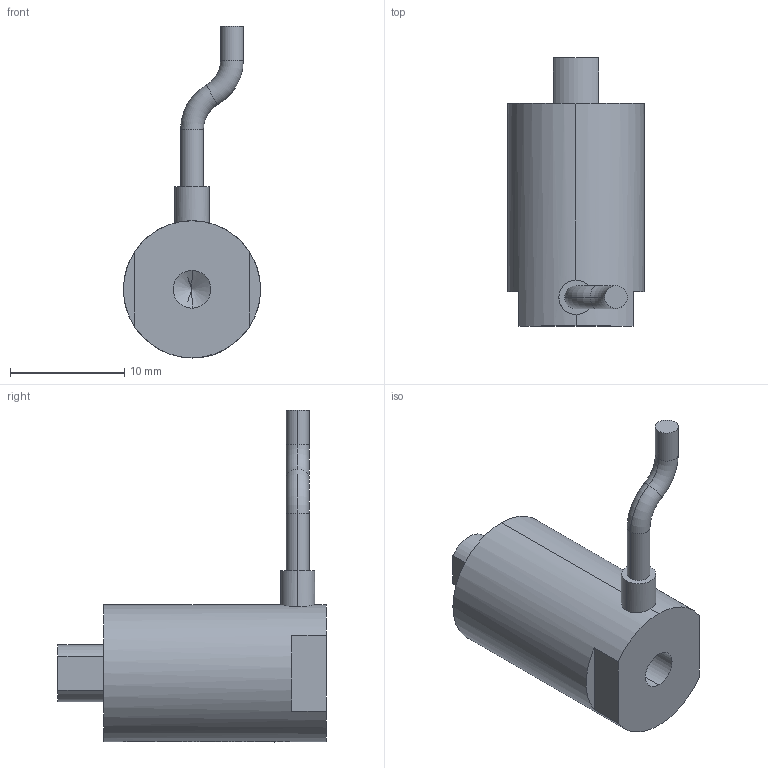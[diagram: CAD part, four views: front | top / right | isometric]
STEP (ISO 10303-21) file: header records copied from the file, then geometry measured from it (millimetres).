
FILE_DESCRIPTION (( 'STEP AP203' ), '1' );
FILE_NAME ('囀蹟恇宒7VS12.STEP', '2020-08-19T06:10:09', ( 'User' ), ( 'china' ), 'SwSTEP 2.0', 'SolidWorks 2016', '' );
FILE_SCHEMA (( 'CONFIG_CONTROL_DESIGN' ));
Length unit declared in the file: millimetre
Products named in the file (1): 囀蹟恇宒7VS12
Bounding box: 12 x 23.5 x 29.08 mm (x, y, z)
Volume: 2235.4 mm3; surface area: 1258.2 mm2
Topology: 1 solids, 1 shells, 914 faces, 2466 edges, 1638 vertices
Faces by surface type: bspline 495, plane 310, cylinder 101, torus 4, cone 4
Entity records: 42261 total; most frequent: CARTESIAN_POINT 23674, ORIENTED_EDGE 4924, EDGE_CURVE 2462, DIRECTION 1940, VERTEX_POINT 1638, B_SPLINE_CURVE_WITH_KNOTS 1634, EDGE_LOOP 1002, FACE_OUTER_BOUND 914
